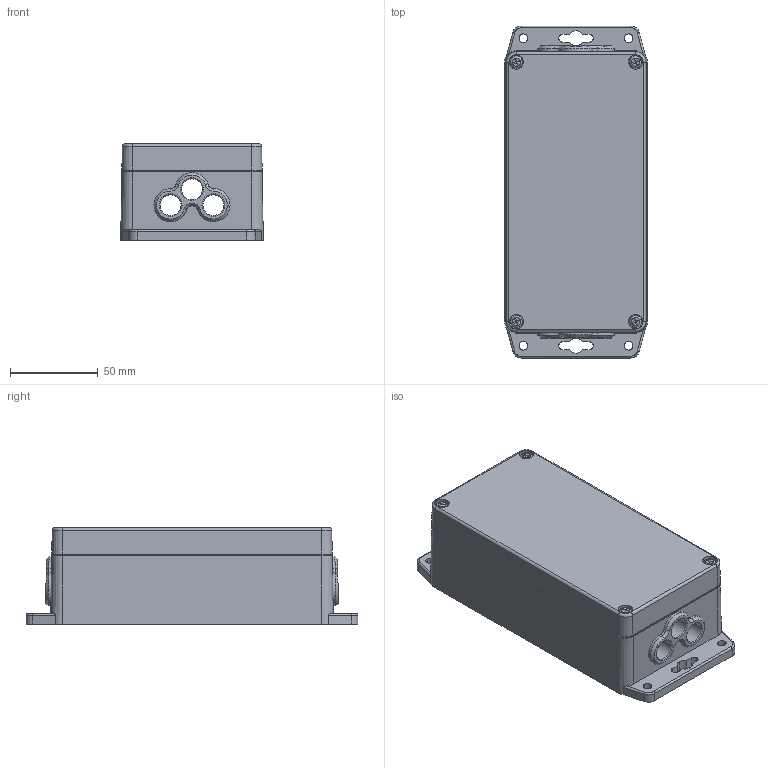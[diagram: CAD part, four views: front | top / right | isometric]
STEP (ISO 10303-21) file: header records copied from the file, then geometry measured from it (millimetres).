
FILE_DESCRIPTION (( 'STEP AP214' ), '1' );
FILE_NAME ('AF-BCR-5-3L-11.STEP', '2020-06-17T09:42:31', ( '' ), ( '' ), 'SwSTEP 2.0', 'SolidWorks 2020', '' );
FILE_SCHEMA (( 'AUTOMOTIVE_DESIGN' ));
Length unit declared in the file: millimetre
Products named in the file (4): Schraube; AF-BCR-5-3L-11; GH157597.0002; Blende_1_BCR
Assembly tree (7 placements, depth 2):
  AF-BCR-5-3L-11
    GH157597.0002
    Blende_1_BCR  x2
    Schraube  x4
Bounding box: 81.4 x 189.4 x 55 mm (x, y, z)
Volume: 179272.1 mm3; surface area: 130034 mm2
Topology: 8 solids, 8 shells, 707 faces, 1805 edges, 1180 vertices
Faces by surface type: cylinder 289, plane 252, cone 134, torus 32
Entity records: 24500 total; most frequent: CARTESIAN_POINT 12219, ORIENTED_EDGE 3080, EDGE_CURVE 1540, DIRECTION 1531, B_SPLINE_CURVE_WITH_KNOTS 1290, VERTEX_POINT 1013, EDGE_LOOP 703, AXIS2_PLACEMENT_3D 699
